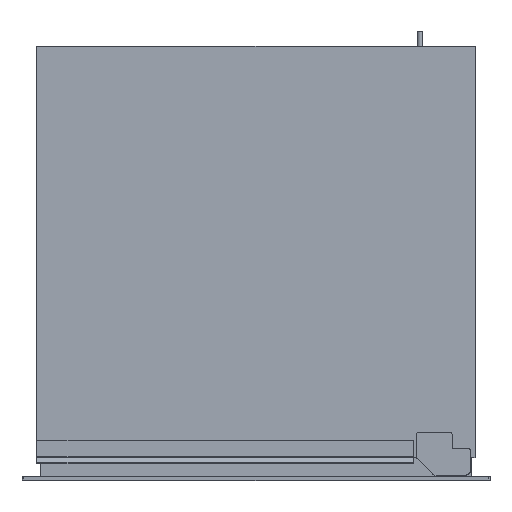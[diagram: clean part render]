
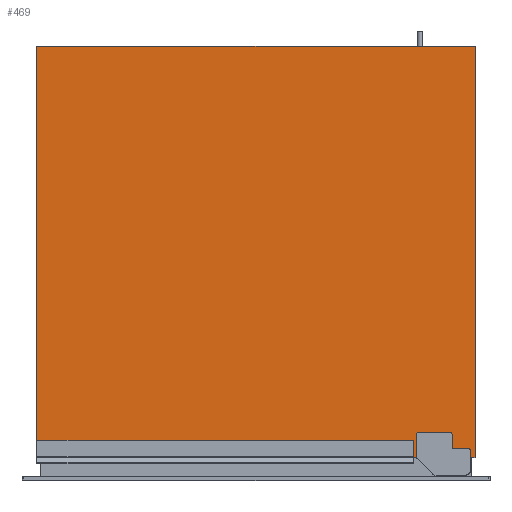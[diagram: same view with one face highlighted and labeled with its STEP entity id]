
A CAD part, top view. The second image highlights one B-rep face of the part: STEP entity #469.
In plain terms, the highlighted planar face has unit normal (0, 0, 1).
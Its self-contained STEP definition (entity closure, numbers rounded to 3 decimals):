
#282=CIRCLE('',#2835,5.);
#283=CIRCLE('',#2836,3.);
#284=CIRCLE('',#2837,3.);
#285=CIRCLE('',#2838,3.);
#469=ADVANCED_FACE('',(#711),#584,.T.);
#584=PLANE('',#2839);
#711=FACE_OUTER_BOUND('',#867,.T.);
#867=EDGE_LOOP('',(#1396,#1397,#1398,#1399,#1400,#1401,#1402,#1403,#1404,
#1405,#1406,#1407,#1408,#1409,#1410,#1411,#1412,#1413));
#1396=ORIENTED_EDGE('',*,*,#2072,.F.);
#1397=ORIENTED_EDGE('',*,*,#2073,.T.);
#1398=ORIENTED_EDGE('',*,*,#2074,.F.);
#1399=ORIENTED_EDGE('',*,*,#2075,.F.);
#1400=ORIENTED_EDGE('',*,*,#2076,.T.);
#1401=ORIENTED_EDGE('',*,*,#2077,.F.);
#1402=ORIENTED_EDGE('',*,*,#2078,.F.);
#1403=ORIENTED_EDGE('',*,*,#2079,.T.);
#1404=ORIENTED_EDGE('',*,*,#2080,.T.);
#1405=ORIENTED_EDGE('',*,*,#2081,.T.);
#1406=ORIENTED_EDGE('',*,*,#2082,.F.);
#1407=ORIENTED_EDGE('',*,*,#2083,.F.);
#1408=ORIENTED_EDGE('',*,*,#2084,.F.);
#1409=ORIENTED_EDGE('',*,*,#2085,.F.);
#1410=ORIENTED_EDGE('',*,*,#2086,.F.);
#1411=ORIENTED_EDGE('',*,*,#2087,.F.);
#1412=ORIENTED_EDGE('',*,*,#2088,.F.);
#1413=ORIENTED_EDGE('',*,*,#2089,.F.);
#1764=VERTEX_POINT('',#4432);
#1765=VERTEX_POINT('',#4433);
#1766=VERTEX_POINT('',#4435);
#1767=VERTEX_POINT('',#4437);
#1768=VERTEX_POINT('',#4439);
#1769=VERTEX_POINT('',#4441);
#1770=VERTEX_POINT('',#4443);
#1771=VERTEX_POINT('',#4445);
#1772=VERTEX_POINT('',#4447);
#1773=VERTEX_POINT('',#4449);
#1774=VERTEX_POINT('',#4451);
#1775=VERTEX_POINT('',#4453);
#1776=VERTEX_POINT('',#4455);
#1777=VERTEX_POINT('',#4457);
#1778=VERTEX_POINT('',#4459);
#1779=VERTEX_POINT('',#4461);
#1780=VERTEX_POINT('',#4463);
#1781=VERTEX_POINT('',#4465);
#2072=EDGE_CURVE('',#1764,#1765,#2332,.T.);
#2073=EDGE_CURVE('',#1764,#1766,#2333,.T.);
#2074=EDGE_CURVE('',#1767,#1766,#2334,.T.);
#2075=EDGE_CURVE('',#1768,#1767,#2335,.T.);
#2076=EDGE_CURVE('',#1768,#1769,#2336,.T.);
#2077=EDGE_CURVE('',#1770,#1769,#2337,.T.);
#2078=EDGE_CURVE('',#1771,#1770,#2338,.T.);
#2079=EDGE_CURVE('',#1771,#1772,#2339,.T.);
#2080=EDGE_CURVE('',#1772,#1773,#2340,.T.);
#2081=EDGE_CURVE('',#1773,#1774,#2341,.T.);
#2082=EDGE_CURVE('',#1775,#1774,#282,.T.);
#2083=EDGE_CURVE('',#1776,#1775,#2342,.T.);
#2084=EDGE_CURVE('',#1777,#1776,#283,.T.);
#2085=EDGE_CURVE('',#1778,#1777,#2343,.T.);
#2086=EDGE_CURVE('',#1779,#1778,#284,.T.);
#2087=EDGE_CURVE('',#1780,#1779,#2344,.T.);
#2088=EDGE_CURVE('',#1781,#1780,#2345,.T.);
#2089=EDGE_CURVE('',#1765,#1781,#285,.T.);
#2332=LINE('',#4431,#2570);
#2333=LINE('',#4434,#2571);
#2334=LINE('',#4436,#2572);
#2335=LINE('',#4438,#2573);
#2336=LINE('',#4440,#2574);
#2337=LINE('',#4442,#2575);
#2338=LINE('',#4444,#2576);
#2339=LINE('',#4446,#2577);
#2340=LINE('',#4448,#2578);
#2341=LINE('',#4450,#2579);
#2342=LINE('',#4454,#2580);
#2343=LINE('',#4458,#2581);
#2344=LINE('',#4462,#2582);
#2345=LINE('',#4464,#2583);
#2570=VECTOR('',#3393,1.);
#2571=VECTOR('',#3394,1.);
#2572=VECTOR('',#3395,1.);
#2573=VECTOR('',#3396,1.);
#2574=VECTOR('',#3397,1.);
#2575=VECTOR('',#3398,1.);
#2576=VECTOR('',#3399,1.);
#2577=VECTOR('',#3400,1.);
#2578=VECTOR('',#3401,1.);
#2579=VECTOR('',#3402,1.);
#2580=VECTOR('',#3405,1.);
#2581=VECTOR('',#3408,1.);
#2582=VECTOR('',#3411,1.);
#2583=VECTOR('',#3412,1.);
#2835=AXIS2_PLACEMENT_3D('',#4452,#3403,#3404);
#2836=AXIS2_PLACEMENT_3D('',#4456,#3406,#3407);
#2837=AXIS2_PLACEMENT_3D('',#4460,#3409,#3410);
#2838=AXIS2_PLACEMENT_3D('',#4466,#3413,#3414);
#2839=AXIS2_PLACEMENT_3D('',#4467,#3415,#3416);
#3393=DIRECTION('',(0.,1.,0.));
#3394=DIRECTION('',(1.,0.,0.));
#3395=DIRECTION('',(0.,-1.,0.));
#3396=DIRECTION('',(1.,0.,0.));
#3397=DIRECTION('',(0.,-1.,0.));
#3398=DIRECTION('',(-1.,0.,0.));
#3399=DIRECTION('',(0.,1.,0.));
#3400=DIRECTION('',(-1.,0.,0.));
#3401=DIRECTION('',(0.,-1.,0.));
#3402=DIRECTION('',(1.,0.,0.));
#3403=DIRECTION('',(0.,0.,1.));
#3404=DIRECTION('',(1.,0.,0.));
#3405=DIRECTION('',(0.,-1.,0.));
#3406=DIRECTION('',(0.,0.,1.));
#3407=DIRECTION('',(1.,0.,0.));
#3408=DIRECTION('',(-1.,0.,0.));
#3409=DIRECTION('',(0.,0.,1.));
#3410=DIRECTION('',(1.,0.,0.));
#3411=DIRECTION('',(0.,1.,0.));
#3412=DIRECTION('',(-1.,0.,0.));
#3413=DIRECTION('',(0.,0.,1.));
#3414=DIRECTION('',(1.,0.,0.));
#3415=DIRECTION('',(0.,0.,1.));
#3416=DIRECTION('',(-1.,0.,0.));
#4431=CARTESIAN_POINT('',(552.75,-48.285,216.735));
#4432=CARTESIAN_POINT('',(552.75,-31.285,216.735));
#4433=CARTESIAN_POINT('',(552.75,-23.285,216.735));
#4434=CARTESIAN_POINT('',(1.75,-31.285,216.735));
#4435=CARTESIAN_POINT('',(558.75,-31.285,216.735));
#4436=CARTESIAN_POINT('',(558.75,490.715,216.735));
#4437=CARTESIAN_POINT('',(558.75,490.715,216.735));
#4438=CARTESIAN_POINT('',(1.75,490.715,216.735));
#4439=CARTESIAN_POINT('',(1.75,490.715,216.735));
#4440=CARTESIAN_POINT('',(1.75,490.715,216.735));
#4441=CARTESIAN_POINT('',(1.75,-9.803,216.735));
#4442=CARTESIAN_POINT('',(480.65,-9.803,216.735));
#4443=CARTESIAN_POINT('',(480.65,-9.803,216.735));
#4444=CARTESIAN_POINT('',(480.65,-30.803,216.735));
#4445=CARTESIAN_POINT('',(480.65,-30.803,216.735));
#4446=CARTESIAN_POINT('',(480.65,-30.803,216.735));
#4447=CARTESIAN_POINT('',(1.75,-30.803,216.735));
#4448=CARTESIAN_POINT('',(1.75,490.715,216.735));
#4449=CARTESIAN_POINT('',(1.75,-31.285,216.735));
#4450=CARTESIAN_POINT('',(1.75,-31.285,216.735));
#4451=CARTESIAN_POINT('',(483.889,-31.285,216.735));
#4452=CARTESIAN_POINT('',(488.75,-30.114,216.735));
#4453=CARTESIAN_POINT('',(483.75,-30.114,216.735));
#4454=CARTESIAN_POINT('',(483.75,-3.285,216.735));
#4455=CARTESIAN_POINT('',(483.75,-3.285,216.735));
#4456=CARTESIAN_POINT('',(486.75,-3.285,216.735));
#4457=CARTESIAN_POINT('',(486.75,-0.285,216.735));
#4458=CARTESIAN_POINT('',(526.75,-0.285,216.735));
#4459=CARTESIAN_POINT('',(526.75,-0.285,216.735));
#4460=CARTESIAN_POINT('',(526.75,-3.285,216.735));
#4461=CARTESIAN_POINT('',(529.75,-3.285,216.735));
#4462=CARTESIAN_POINT('',(529.75,-20.285,216.735));
#4463=CARTESIAN_POINT('',(529.75,-20.285,216.735));
#4464=CARTESIAN_POINT('',(549.75,-20.285,216.735));
#4465=CARTESIAN_POINT('',(549.75,-20.285,216.735));
#4466=CARTESIAN_POINT('',(549.75,-23.285,216.735));
#4467=CARTESIAN_POINT('',(1.75,490.715,216.735));
